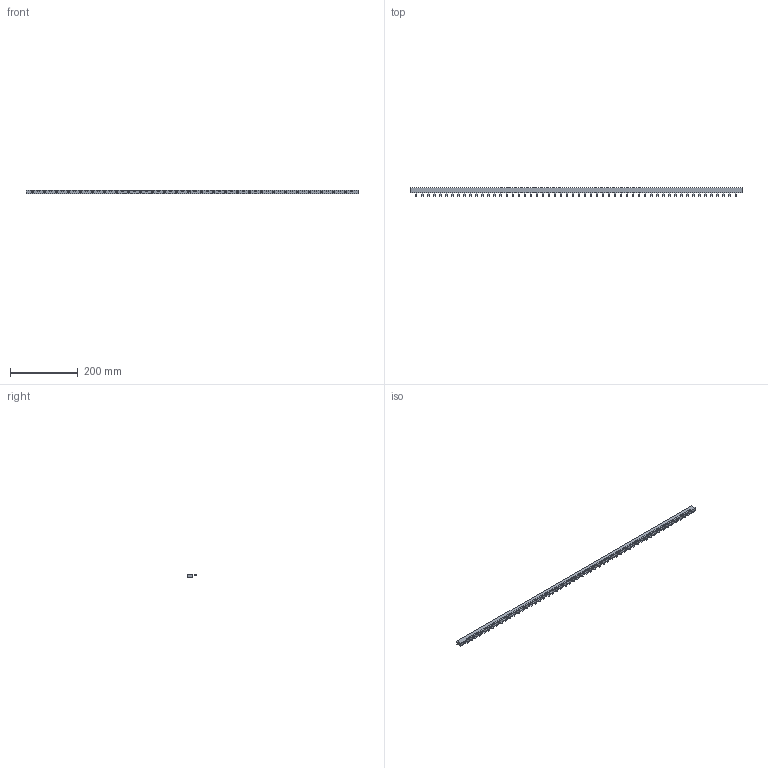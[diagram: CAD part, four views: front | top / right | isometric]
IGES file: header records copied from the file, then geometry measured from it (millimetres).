
Start section: SolidWorks IGES file using analytic representation for surfaces
Global section: file name: \\Brjgs100\dfsweg\GROUPS\BR_SC_JGS_WA_TECNICO\ENG\Usuarios\Rodrigob\conversão\Linha Predial\Produto\Minidisjuntores WEG\Acessorios\BR2-27\BR2-27.IGS; native system: SolidWorks 2018; preprocessor: SolidWorks 2018; author: rodrigob; date: 190507.082855; units: millimetre
Bounding box: 980.6 x 26.5 x 10.3 mm (x, y, z)
Surface area: 72197.4 mm2 (no closed solid volume)
Topology: 0 solids, 0 shells, 994 faces, 7548 edges, 7548 vertices
Faces by surface type: bspline 778, revolution 216
